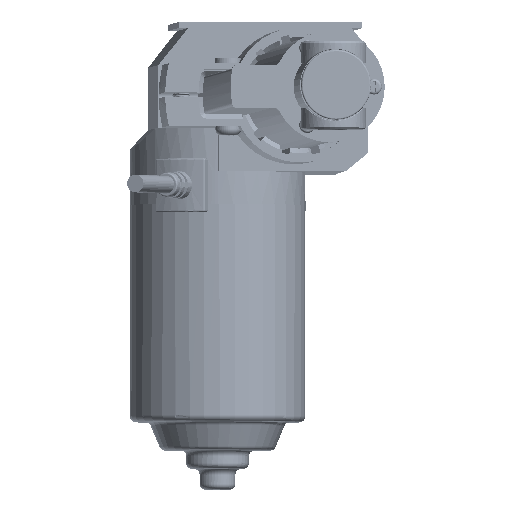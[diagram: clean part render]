
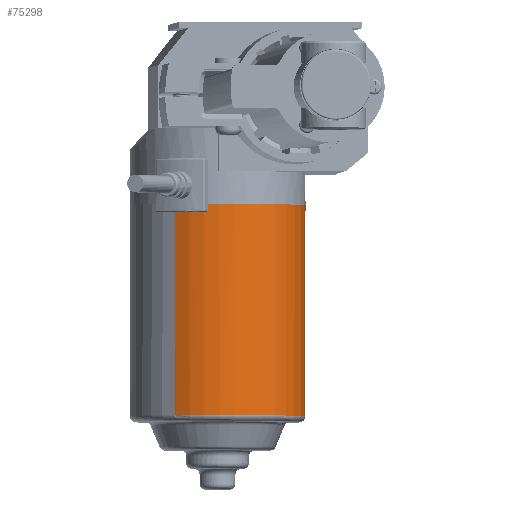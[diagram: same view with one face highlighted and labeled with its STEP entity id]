
A CAD part, left-side view. The second image highlights one B-rep face of the part: STEP entity #75298.
In plain terms, the highlighted cylindrical face has radius 29.5 mm (diameter 59 mm), a partial arc.
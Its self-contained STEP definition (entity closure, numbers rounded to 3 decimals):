
#73392=CARTESIAN_POINT('',(72.405,50.503,
-61.635));
#73393=DIRECTION('',(0.017,-0.001,1.));
#73394=DIRECTION('',(-0.875,0.484,0.015));
#73395=AXIS2_PLACEMENT_3D('',#73392,#73393,#73394);
#73407=DIRECTION('',(0.017,-0.001,1.));
#73408=VECTOR('',#73407,71.);
#73409=CARTESIAN_POINT('',(97.014,36.305,
-133.077));
#73410=LINE('',#73409,#73408);
#73411=DIRECTION('',(-0.017,0.001,-1.));
#73412=VECTOR('',#73411,71.);
#73413=CARTESIAN_POINT('',(46.596,64.786,
-61.182));
#73414=LINE('',#73413,#73412);
#73425=CARTESIAN_POINT('',(71.206,50.587,
-132.625));
#73426=DIRECTION('',(-0.017,0.001,-1.));
#73427=DIRECTION('',(0.875,-0.484,-0.015));
#73428=AXIS2_PLACEMENT_3D('',#73425,#73426,#73427);
#73430=CARTESIAN_POINT('',(71.206,50.587,
-132.625));
#73431=DIRECTION('',(-0.017,0.001,-1.));
#73432=DIRECTION('',(-0.878,0.478,0.015));
#73433=AXIS2_PLACEMENT_3D('',#73430,#73431,#73432);
#74498=CARTESIAN_POINT('',(97.014,36.305,
-133.077));
#74499=VERTEX_POINT('',#74498);
#74502=CARTESIAN_POINT('',(45.397,64.869,
-132.172));
#74503=VERTEX_POINT('',#74502);
#74508=CARTESIAN_POINT('',(45.303,64.697,
-132.171));
#74509=VERTEX_POINT('',#74508);
#74510=CARTESIAN_POINT('',(46.596,64.786,
-61.182));
#74511=VERTEX_POINT('',#74510);
#74512=CARTESIAN_POINT('',(98.213,36.221,
-62.087));
#74513=VERTEX_POINT('',#74512);
#75284=CARTESIAN_POINT('',(72.405,50.503,
-61.635));
#75285=DIRECTION('',(-0.017,0.001,-1.));
#75286=DIRECTION('',(0.875,-0.484,-0.015));
#75287=AXIS2_PLACEMENT_3D('',#75284,#75285,#75286);
#75288=CYLINDRICAL_SURFACE('',#75287,29.5);
#75289=ORIENTED_EDGE('',*,*,#75275,.T.);
#75290=ORIENTED_EDGE('',*,*,#75258,.F.);
#75291=ORIENTED_EDGE('',*,*,#75272,.T.);
#75293=ORIENTED_EDGE('',*,*,#75292,.F.);
#75295=ORIENTED_EDGE('',*,*,#75294,.F.);
#75296=EDGE_LOOP('',(#75289,#75290,#75291,#75293,#75295));
#75297=FACE_OUTER_BOUND('',#75296,.F.);
#75298=ADVANCED_FACE('',(#75297),#75288,.F.);
#73396=CIRCLE('',#73395,29.5);
#73429=CIRCLE('',#73428,29.5);
#73434=CIRCLE('',#73433,29.5);
#75258=EDGE_CURVE('',#74511,#74513,#73396,.T.);
#75272=EDGE_CURVE('',#74511,#74503,#73414,.T.);
#75275=EDGE_CURVE('',#74499,#74513,#73410,.T.);
#75292=EDGE_CURVE('',#74509,#74503,#73434,.T.);
#75294=EDGE_CURVE('',#74499,#74509,#73429,.T.);
